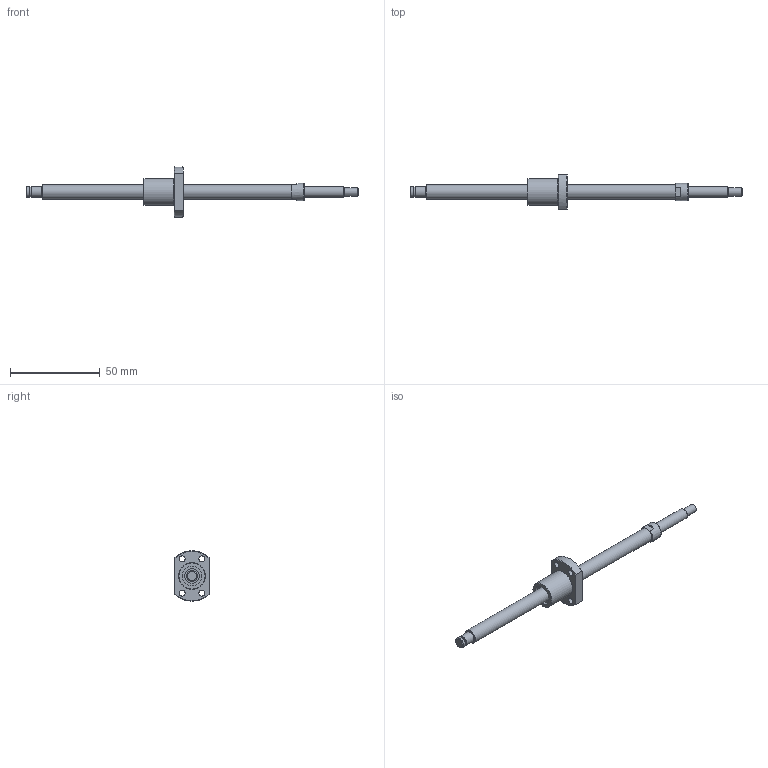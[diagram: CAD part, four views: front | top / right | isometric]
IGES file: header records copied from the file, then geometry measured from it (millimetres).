
Start section: Data from Parasolid IGES Translator 26.0.171, Copyright(c) 2006 Siemens PLM Software. All Rights Reserved.
Global section: file name: BNK0802-3RRG0+185LC5Y(78.5).igs; native system: By Siemens PLM Incorporated; preprocessor: XPlus GENERIC/IGES 26.0.171; author: Noname; organization: Noname; date: 20240709.084722; units: millimetre
Bounding box: 185 x 19 x 28 mm (x, y, z)
Surface area: 7369.5 mm2 (no closed solid volume)
Topology: 0 solids, 0 shells, 53 faces, 230 edges, 199 vertices
Faces by surface type: revolution 32, extrusion 21
